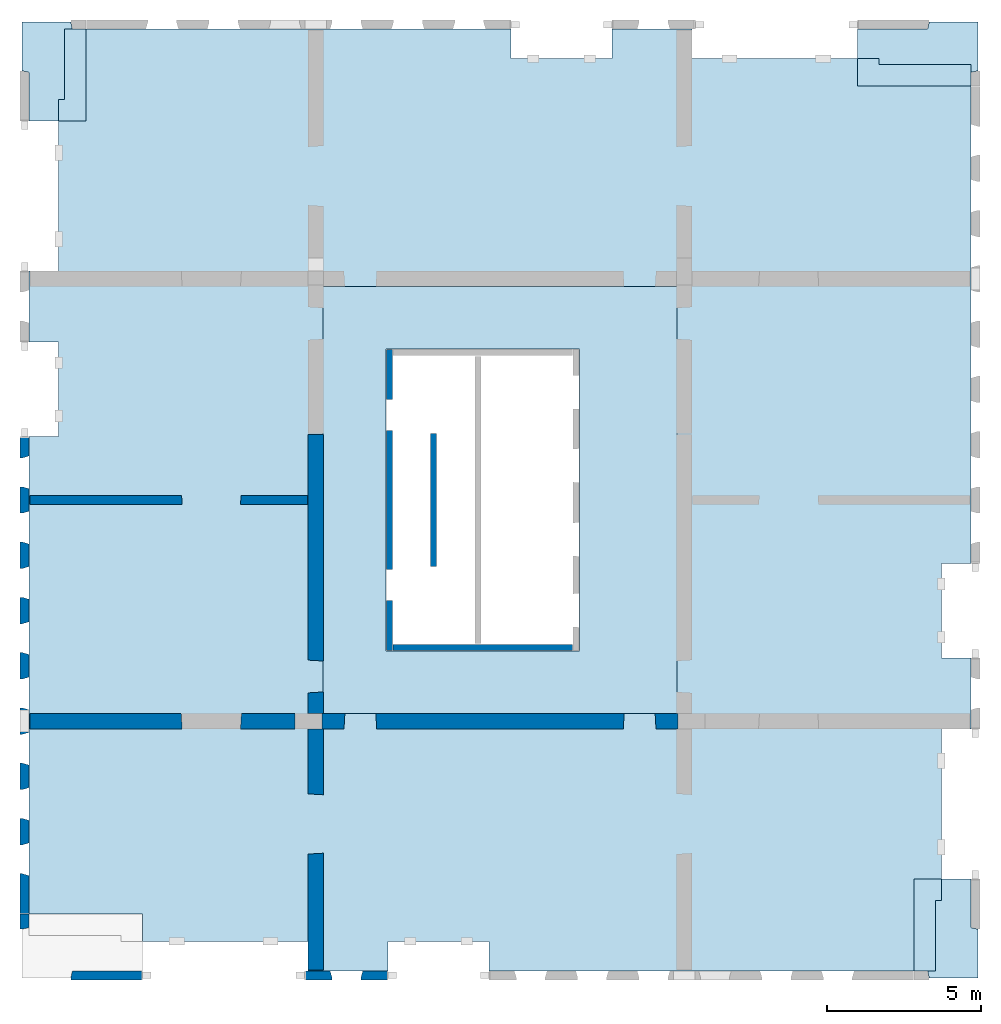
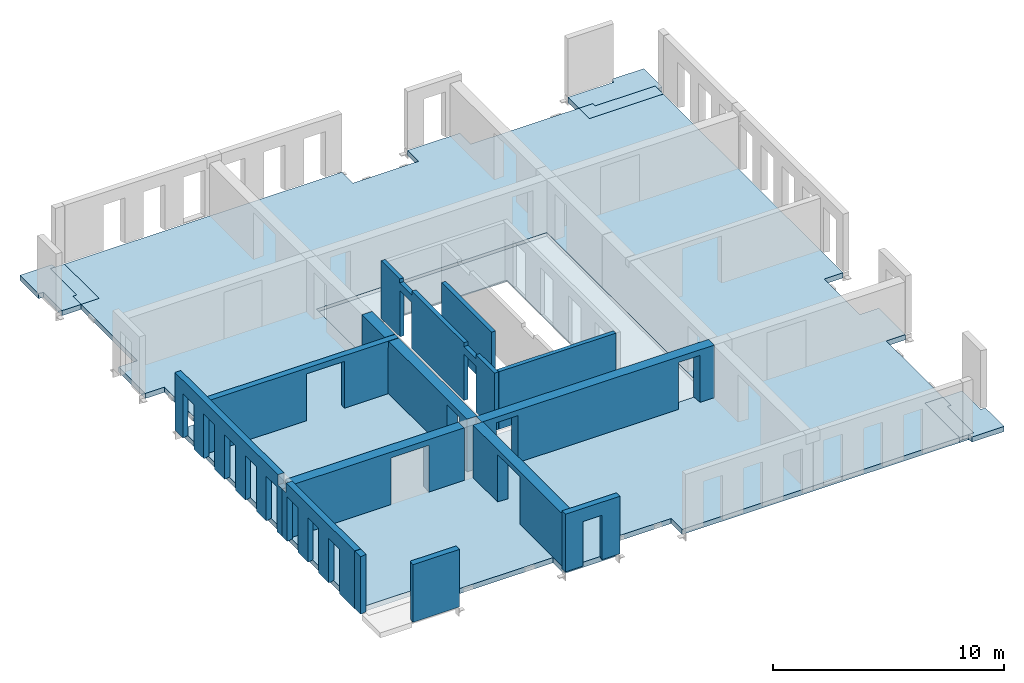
# One storey, part 2 of 4: 13 walls, 8 slabs, 27 openings.
"""IFC2X3 building model written with IfcOpenShell, lengths in millimetres."""

from ifc_helpers import new_model, entity, si_unit, converted_unit, derived_unit, direction, frame, frame_2d, origin, origin_2d_with_axis, place, context, subcontext, project, spatial, polyline, rectangle, outline, extrude, faceted_brep, material, layer, layer_set, layer_usage, type_object, element, save


model = new_model("IFC2X3")

# Units and contexts
model_context = context("Model", 3, precision=0.01, world=origin(), true_north=direction((6.12303176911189e-17, 1.0)))
body_context = subcontext(model_context, "Body", "Model", "MODEL_VIEW")
ifc_project = project(units=[si_unit("LENGTHUNIT", "METRE", prefix="MILLI"), si_unit("AREAUNIT", "SQUARE_METRE"), si_unit("VOLUMEUNIT", "CUBIC_METRE"), converted_unit("PLANEANGLEUNIT", "DEGREE", entity("IfcRatioMeasure", 0.0174532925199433), si_unit("PLANEANGLEUNIT", "RADIAN"), dimensions=[0, 0, 0, 0, 0, 0, 0]), si_unit("MASSUNIT", "GRAM", prefix="KILO"), derived_unit("MASSDENSITYUNIT", [(si_unit("MASSUNIT", "GRAM", prefix="KILO"), 1), (si_unit("LENGTHUNIT", "METRE"), -3)]), si_unit("TIMEUNIT", "SECOND"), si_unit("FREQUENCYUNIT", "HERTZ"), si_unit("THERMODYNAMICTEMPERATUREUNIT", "DEGREE_CELSIUS"), derived_unit("THERMALTRANSMITTANCEUNIT", [(si_unit("MASSUNIT", "GRAM", prefix="KILO"), 1), (si_unit("THERMODYNAMICTEMPERATUREUNIT", "KELVIN"), -1), (si_unit("TIMEUNIT", "SECOND"), -3)]), derived_unit("VOLUMETRICFLOWRATEUNIT", [(si_unit("LENGTHUNIT", "METRE"), 3), (si_unit("TIMEUNIT", "SECOND"), -1)]), si_unit("ELECTRICCURRENTUNIT", "AMPERE"), si_unit("ELECTRICVOLTAGEUNIT", "VOLT"), si_unit("POWERUNIT", "WATT"), si_unit("FORCEUNIT", "NEWTON", prefix="KILO"), si_unit("ILLUMINANCEUNIT", "LUX"), si_unit("LUMINOUSFLUXUNIT", "LUMEN"), si_unit("LUMINOUSINTENSITYUNIT", "CANDELA"), derived_unit("USERDEFINED", [(si_unit("MASSUNIT", "GRAM", prefix="KILO"), -1), (si_unit("LENGTHUNIT", "METRE"), -2), (si_unit("TIMEUNIT", "SECOND"), 3), (si_unit("LUMINOUSFLUXUNIT", "LUMEN"), 1)]), derived_unit("LINEARVELOCITYUNIT", [(si_unit("LENGTHUNIT", "METRE"), 1), (si_unit("TIMEUNIT", "SECOND"), -1)]), si_unit("PRESSUREUNIT", "PASCAL"), derived_unit("USERDEFINED", [(si_unit("LENGTHUNIT", "METRE"), -2), (si_unit("MASSUNIT", "GRAM", prefix="KILO"), 1), (si_unit("TIMEUNIT", "SECOND"), -2)])], contexts=[model_context])

# Site, building, storey
site_placement = place(None, origin())
site = spatial("IfcSite", under=ifc_project, at=site_placement, Name="Default", CompositionType="ELEMENT")
building_placement = place(site_placement, origin())
building = spatial("IfcBuilding", under=site, at=building_placement, Name="niet gebruiken", CompositionType="ELEMENT")
storey_placement = place(building_placement, frame((0.0, 0.0, 51660.0)))
storey = spatial("IfcBuildingStorey", under=building, at=storey_placement, Name="16 zestiende verdieping", CompositionType="ELEMENT", Elevation=51660.0)

# Slabs
ifc_material_1 = material(Name="NLRS_f2_beton prefab")
ifc_layer_1 = layer(ifc_material_1, 270.0)
ifc_layer_set_1 = layer_set([ifc_layer_1], Name="Floor:NLRS_23.22_FL_beton prefab d=270 3D element_gen")
ifc_layer_usage_1 = layer_usage(ifc_layer_set_1, "AXIS3", "POSITIVE", 0.0)
slab_1_placement = place(storey_placement, origin())
element("IfcSlab", 1, at=slab_1_placement, inside=storey, material=ifc_layer_usage_1, Name="Floor:NLRS_23.22_FL_beton prefab d=270 3D element_gen", ObjectType="Floor:NLRS_23.22_FL_beton prefab d=270 3D element_gen", PredefinedType="LANDING", context=body_context, shape_type="SweptSolid", body=[
    extrude(outline(polyline([(-322.675940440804, -982.471394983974), (1267.47139498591, -982.471394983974), (1267.47139498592, 607.675940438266), (1034.47139498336, 655.152429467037), (1034.47139498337, 1100.5286050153), (-1955.52860501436, 1100.52860501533), (-1955.52860501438, -749.471394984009), (-370.152429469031, -749.471394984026), (-322.675940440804, -982.471394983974)])), frame((127169.471394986, 31795.5286050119, -90.0), z_axis=(0.0, 0.0, -1.0), x_axis=(0.0, 1.0, 0.0)), (0.0, 0.0, 1.0), 269.999999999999),
])
ifc_material_2 = material(Name="NLRS_f2_beton ihwg")
ifc_layer_2 = layer(ifc_material_2, 170.0)
ifc_layer_set_2 = layer_set([ifc_layer_2], Name="Floor:NLRS_23.21_FL_beton ihwg d=170_gen")
ifc_layer_usage_2 = layer_usage(ifc_layer_set_2, "AXIS3", "POSITIVE", 0.0)
slab_2_placement = place(storey_placement, origin())
element("IfcSlab", 2, at=slab_2_placement, inside=storey, material=ifc_layer_usage_2, Name="Floor:NLRS_23.21_FL_beton ihwg d=170_gen", ObjectType="Floor:NLRS_23.21_FL_beton ihwg d=170_gen", PredefinedType="FLOOR", context=body_context, shape_type="SweptSolid", body=[
    extrude(outline(polyline([(-1230.0, -366.666666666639), (-530.0, -366.666666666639), (-530.0, -166.66666666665), (1760.0, -166.666666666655), (1760.0, 533.333333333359), (-1230.0, 533.333333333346), (-1230.0, -366.666666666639)])), frame((127736.666666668, 31070.0, -90.0), z_axis=(0.0, 0.0, -1.0), x_axis=(0.0, 1.0, 0.0)), (0.0, 0.0, 1.0), 169.999999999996),
])
ifc_layer_usage_3 = layer_usage(ifc_layer_set_1, "AXIS3", "POSITIVE", 0.0)
slab_3_placement = place(storey_placement, origin())
element("IfcSlab", 3, at=slab_3_placement, inside=storey, material=ifc_layer_usage_3, Name="Floor:NLRS_23.22_FL_beton prefab d=270 3D element_gen", ObjectType="Floor:NLRS_23.22_FL_beton prefab d=270 3D element_gen", PredefinedType="LANDING", context=body_context, shape_type="SweptSolid", body=[
    extrude(outline(polyline([(-1034.47139498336, -1100.52860501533), (1955.52860501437, -1100.52860501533), (1955.52860501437, 749.471394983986), (370.152429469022, 749.471394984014), (322.675940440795, 982.471394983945), (-1267.47139498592, 982.471394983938), (-1267.47139498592, -607.675940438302), (-1034.47139498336, -655.152429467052), (-1034.47139498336, -1100.52860501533)])), frame((156330.528605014, 3204.47139498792, -90.0), z_axis=(0.0, 0.0, -1.0), x_axis=(0.0, 1.0, 0.0)), (0.0, 0.0, 1.0), 269.999999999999),
])
ifc_layer_usage_4 = layer_usage(ifc_layer_set_2, "AXIS3", "POSITIVE", 0.0)
slab_4_placement = place(storey_placement, origin())
element("IfcSlab", 4, at=slab_4_placement, inside=storey, material=ifc_layer_usage_4, Name="Floor:NLRS_23.21_FL_beton ihwg d=170_gen", ObjectType="Floor:NLRS_23.21_FL_beton ihwg d=170_gen", PredefinedType="FLOOR", context=body_context, shape_type="SweptSolid", body=[
    extrude(outline(polyline([(-1760.0, -533.33333333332), (1230.0, -533.33333333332), (1230.0, 366.666666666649), (530.0, 366.666666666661), (530.0, 166.666666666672), (-1760.0, 166.666666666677), (-1760.0, -533.33333333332)])), frame((155763.333333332, 3930.0, -90.0), z_axis=(0.0, 0.0, -1.0), x_axis=(0.0, 1.0, 0.0)), (0.0, 0.0, 1.0), 169.999999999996),
])
ifc_layer_usage_5 = layer_usage(ifc_layer_set_1, "AXIS3", "POSITIVE", 0.0)
slab_5_placement = place(storey_placement, origin())
element("IfcSlab", 5, at=slab_5_placement, inside=storey, material=ifc_layer_usage_5, Name="Floor:NLRS_23.22_FL_beton prefab d=270 3D element_gen", ObjectType="Floor:NLRS_23.22_FL_beton prefab d=270 3D element_gen", PredefinedType="LANDING", context=body_context, shape_type="SweptSolid", body=[
    extrude(outline(polyline([(-1100.52860501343, -2480.52860501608), (749.471394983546, -2480.52860501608), (749.471394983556, -195.152429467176), (982.471394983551, -147.675940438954), (982.471394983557, 1442.47139498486), (-607.675940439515, 1442.47139498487), (-655.152429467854, 1209.47139498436), (-1100.52860501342, 1209.47139498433), (-1100.52860501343, -2480.52860501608)])), frame((155870.528605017, 32080.5286050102, -90.0), z_axis=(0.0, 0.0, -1.0), x_axis=(0.0, 1.0, 0.0)), (0.0, 0.0, 1.0), 269.999999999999),
])
ifc_layer_usage_6 = layer_usage(ifc_layer_set_2, "AXIS3", "POSITIVE", 0.0)
slab_6_placement = place(storey_placement, origin())
element("IfcSlab", 6, at=slab_6_placement, inside=storey, material=ifc_layer_usage_6, Name="Floor:NLRS_23.21_FL_beton ihwg d=170_gen", ObjectType="Floor:NLRS_23.21_FL_beton ihwg d=170_gen", PredefinedType="FLOOR", context=body_context, shape_type="SweptSolid", body=[
    extrude(outline(polyline([(-533.333333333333, -1463.33333333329), (366.666666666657, -1463.33333333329), (366.666666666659, -763.333333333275), (166.66666666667, -763.333333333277), (166.666666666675, 2226.66666666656), (-533.333333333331, 2226.66666666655), (-533.333333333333, -1463.33333333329)])), frame((154853.333333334, 31513.3333333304, -90.0), z_axis=(0.0, 0.0, -1.0), x_axis=(0.0, 1.0, 0.0)), (0.0, 0.0, 1.0), 169.999999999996),
])

# Slab, opening
ifc_layer_3 = layer(ifc_material_2, 170.0)
ifc_layer_4 = layer(ifc_material_1, 100.0)
ifc_layer_set_3 = layer_set([ifc_layer_3, ifc_layer_4], Name="Floor:NLRS_23.21_FL_breedplaat d=100/270_gen")
ifc_layer_usage_7 = layer_usage(ifc_layer_set_3, "AXIS3", "POSITIVE", 0.0)
slab_7_placement = place(storey_placement, frame((126419.874984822, 2169.76388720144, -360.0)))
slab_7 = element("IfcSlab", 7, at=slab_7_placement, inside=storey, material=ifc_layer_usage_7, Name="Floor:NLRS_23.21_FL_breedplaat d=100/270_gen", ObjectType="Floor:NLRS_23.21_FL_breedplaat d=100/270_gen", PredefinedType="FLOOR", context=body_context, shape_type="SweptSolid", body=[
    extrude(outline(polyline([(-360.0, 15330.0), (-360.0, 14380.0), (-3640.0, 14380.0), (-3640.0, 15330.0), (-6250.0, 15330.0), (-6250.0, 14380.0), (-11640.0, 14380.0), (-11640.0, 13480.0), (-15330.0, 13480.0), (-15330.0, -2060.0), (-14380.0, -2060.0), (-14380.0, -5140.0), (-15330.0, -5140.0), (-15330.0, -7450.0), (-14380.0, -7450.0), (-14380.0, -12340.0), (-13480.0, -12340.0), (-13480.0, -15330.0), (360.0, -15330.0), (360.0, -14380.0), (3640.0, -14380.0), (3640.0, -15330.0), (6250.0, -15330.0), (6250.0, -14380.0), (11640.0, -14380.0), (11640.0, -13480.0), (15330.0, -13480.0), (15330.0, 2060.0), (14380.0, 2060.0), (14380.0, 5140.0), (15330.0, 5140.0), (15330.0, 7450.0), (14380.0, 7450.0), (14380.0, 12340.0), (13480.0, 12340.0), (13480.0, 15330.0), (-360.0, 15330.0)])), frame((15330.0, 15330.0, 270.0), z_axis=(0.0, 0.0, -1.0), x_axis=(-1.0, 0.0, 0.0)), (0.0, 0.0, 1.0), 269.999999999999),
])
opening_1_placement = place(slab_7_placement, frame((15330.0, 15330.0, 270.0)))
element("IfcOpeningElement", 8, at=opening_1_placement, cuts=slab_7, Name="Floor:NLRS_23.21_FL_breedplaat d=100/270_gen:2", ObjectType="Opening", context=body_context, shape_type="SweptSolid", body=[
    extrude(rectangle(XDim=13900.0, YDim=11500.0, at=origin_2d_with_axis()), frame((0.0, 0.0, 0.0), z_axis=(0.0, 0.0, -1.0), x_axis=(0.0, -1.0, 0.0)), (0.0, 0.0, 1.0), 269.999999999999),
])

ifc_layer_5 = layer(ifc_material_1, 60.0)
ifc_layer_set_4 = layer_set([ifc_layer_5], Name="Floor:NLRS_23.21_FL_breedplaat d=60_gen")
ifc_layer_usage_8 = layer_usage(ifc_layer_set_4, "AXIS3", "POSITIVE", 0.0)
slab_8_placement = place(storey_placement, frame((135990.0, 10540.0, -320.0)))
slab_8 = element("IfcSlab", 9, at=slab_8_placement, inside=storey, material=ifc_layer_usage_8, Name="Floor:NLRS_23.21_FL_breedplaat d=60_gen", ObjectType="Floor:NLRS_23.21_FL_breedplaat d=60_gen", PredefinedType="FLOOR", context=body_context, shape_type="SweptSolid", body=[
    extrude(rectangle(XDim=13919.9999999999, YDim=11520.0, at=frame_2d((0.0, 0.0), x_axis=(0.0, -1.0))), frame((5760.0, 6960.0, 60.0), z_axis=(0.0, 0.0, -1.0), x_axis=(-1.0, 0.0, 0.0)), (0.0, 0.0, 1.0), 60.0000000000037),
])
opening_2_placement = place(slab_8_placement, frame((5200.0, 6960.0, 60.0)))
element("IfcOpeningElement", 10, at=opening_2_placement, cuts=slab_8, Name="Floor:NLRS_23.21_FL_breedplaat d=60_gen:2", ObjectType="Opening", context=body_context, shape_type="SweptSolid", body=[
    extrude(rectangle(XDim=9820.0, YDim=6299.99999999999, at=origin_2d_with_axis()), frame((0.0, 0.0, 0.0), z_axis=(0.0, 0.0, -1.0), x_axis=(0.0, -1.0, 0.0)), (0.0, 0.0, 1.0), 60.0000000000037),
])

# Wall, openings
ifc_layer_6 = layer(ifc_material_1, 200.0)
ifc_layer_set_5 = layer_set([ifc_layer_6], Name="Basic Wall:NLRS_22.21_WA_beton prefab d=200_gen")
ifc_layer_usage_9 = layer_usage(ifc_layer_set_5, "AXIS2", "NEGATIVE", 100.0)
wall_type_1 = type_object("IfcWallType", Name="Basic Wall:NLRS_22.21_WA_beton prefab d=200_gen", PredefinedType="STANDARD", material=ifc_layer_set_5)
wall_1_placement = place(storey_placement, frame((138150.0, 22400.0, -50.0), z_axis=(0.0, 0.0, 1.0), x_axis=(0.0, -1.0, 0.0)))
wall_1 = element("IfcWallStandardCase", 11, at=wall_1_placement, inside=storey, type_object=wall_type_1, material=ifc_layer_usage_9, Name="Basic Wall:NLRS_22.21_WA_beton prefab d=200_gen", ObjectType="Basic Wall:NLRS_22.21_WA_beton prefab d=200_gen", context=body_context, shape_type="SweptSolid", body=[
    extrude(rectangle(XDim=9800.0, YDim=199.999999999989, at=frame_2d((4900.0, 3.76587649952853e-13), x_axis=(-1.0, 0.0))), origin(), (0.0, 0.0, 1.0), 3040.0),
])
opening_3_placement = place(wall_1_placement, origin())
element("IfcOpeningElement", 12, at=opening_3_placement, cuts=wall_1, Name="Basic Wall:NLRS_22.21_WA_beton prefab d=200_gen", ObjectType="Opening", context=body_context, shape_type="SweptSolid", body=[
    extrude(rectangle(XDim=199.999999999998, YDim=1044.0, at=frame_2d((4.33431068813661e-12, 0.0), x_axis=(1.0, 0.0))), frame((7672.0, -100.0, 2940.0), z_axis=(0.0, 1.0, 0.0), x_axis=(0.0, 0.0, -1.0)), (0.0, 0.0, 1.0), 199.999999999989),
])
opening_4_placement = place(wall_1_placement, origin())
element("IfcOpeningElement", 13, at=opening_4_placement, cuts=wall_1, Name="Basic Wall:NLRS_22.21_WA_beton prefab d=200_gen", ObjectType="Opening", context=body_context, shape_type="SweptSolid", body=[
    extrude(rectangle(XDim=199.999999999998, YDim=1044.0, at=frame_2d((4.33431068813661e-12, 2.1600499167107e-12), x_axis=(1.0, 0.0))), frame((2128.0, -100.0, 2940.0), z_axis=(0.0, 1.0, 0.0), x_axis=(0.0, 0.0, -1.0)), (0.0, 0.0, 1.0), 199.999999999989),
])
opening_5_placement = place(wall_1_placement, origin())
element("IfcOpeningElement", 14, at=opening_5_placement, cuts=wall_1, Name="Basic Wall:NLRS_22.21_WA_beton prefab d=200_gen", ObjectType="Opening", context=body_context, shape_type="SweptSolid", body=[
    extrude(rectangle(XDim=2435.00000000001, YDim=1015.99999999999, at=frame_2d((-4.32009983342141e-12, 1.10844666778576e-12), x_axis=(1.0, 0.0))), frame((7672.0, -100.0, 1217.50000000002), z_axis=(0.0, 1.0, 0.0), x_axis=(0.0, 0.0, -1.0)), (0.0, 0.0, 1.0), 199.999999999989),
])
opening_6_placement = place(wall_1_placement, origin())
element("IfcOpeningElement", 15, at=opening_6_placement, cuts=wall_1, Name="Basic Wall:NLRS_22.21_WA_beton prefab d=200_gen", ObjectType="Opening", context=body_context, shape_type="SweptSolid", body=[
    extrude(rectangle(XDim=2435.00000000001, YDim=1015.99999999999, at=frame_2d((-4.32009983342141e-12, -2.18847162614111e-12), x_axis=(1.0, 0.0))), frame((2128.0, -100.0, 1217.50000000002), z_axis=(0.0, 1.0, 0.0), x_axis=(0.0, 0.0, -1.0)), (0.0, 0.0, 1.0), 199.999999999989),
])

# Walls
ifc_layer_usage_10 = layer_usage(ifc_layer_set_5, "AXIS2", "NEGATIVE", 100.0)
wall_2_placement = place(storey_placement, frame((139590.0, 19660.0, -50.0), z_axis=(0.0, 0.0, 1.0), x_axis=(0.0, -1.0, 0.0)))
element("IfcWallStandardCase", 16, at=wall_2_placement, inside=storey, type_object=wall_type_1, material=ifc_layer_usage_10, Name="Basic Wall:NLRS_22.21_WA_beton prefab d=200_gen", ObjectType="Basic Wall:NLRS_22.21_WA_beton prefab d=200_gen", context=body_context, shape_type="SweptSolid", body=[
    extrude(rectangle(XDim=4320.00000000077, YDim=199.999999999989, at=frame_2d((2160.00000000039, 0.0), x_axis=(-1.0, 0.0))), origin(), (0.0, 0.0, 1.0), 3040.0),
])
ifc_layer_usage_11 = layer_usage(ifc_layer_set_5, "AXIS2", "NEGATIVE", 100.0)
wall_3_placement = place(storey_placement, frame((138270.0, 12700.0, -50.0)))
element("IfcWallStandardCase", 17, at=wall_3_placement, inside=storey, type_object=wall_type_1, material=ifc_layer_usage_11, Name="Basic Wall:NLRS_22.21_WA_beton prefab d=200_gen", ObjectType="Basic Wall:NLRS_22.21_WA_beton prefab d=200_gen", context=body_context, shape_type="SweptSolid", body=[
    extrude(rectangle(XDim=5839.99999999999, YDim=199.999999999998, at=frame_2d((2919.99999999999, -6.82121026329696e-13), x_axis=(-1.0, 0.0))), origin(), (0.0, 0.0, 1.0), 3040.0),
])

# Wall, openings
ifc_layer_7 = layer(ifc_material_1, 300.0)
ifc_layer_set_6 = layer_set([ifc_layer_7], Name="Basic Wall:NLRS_22.21_WA_beton prefab d=300_gen")
ifc_layer_usage_12 = layer_usage(ifc_layer_set_6, "AXIS2", "NEGATIVE", 150.0)
wall_type_2 = type_object("IfcWallType", Name="Basic Wall:NLRS_22.21_WA_beton prefab d=300_gen", PredefinedType="STANDARD", material=ifc_layer_set_6)
wall_4_placement = place(storey_placement, frame((126440.0, 17500.0, -70.0)))
wall_4 = element("IfcWallStandardCase", 18, at=wall_4_placement, inside=storey, type_object=wall_type_2, material=ifc_layer_usage_12, Name="Basic Wall:NLRS_22.21_WA_beton prefab d=300_gen", ObjectType="Basic Wall:NLRS_22.21_WA_beton prefab d=300_gen", context=body_context, shape_type="SweptSolid", body=[
    extrude(rectangle(XDim=9559.9999999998, YDim=300.000000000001, at=frame_2d((4779.9999999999, -4.2632564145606e-14), x_axis=(-1.0, 0.0))), origin(), (0.0, 0.0, 1.0), 2769.99999999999),
])
opening_7_placement = place(wall_4_placement, frame((4942.0, -150.0, 0.0)))
element("IfcOpeningElement", 19, at=opening_7_placement, cuts=wall_4, Name="Basic Wall:NLRS_22.21_WA_beton prefab d=300_gen", ObjectType="Opening", context=body_context, shape_type="Brep", body=[
    faceted_brep([(1918.0, 0.0, 2470.0), (18.0, 0.0, 2470.0), (18.0, 0.0, 0.0), (1918.0, 0.0, 0.0), (1936.0, 300.0, 2488.0), (1936.0, 300.0, 0.0), (0.0, 300.0, 0.0), (0.0, 300.0, 2488.0)], [[[0, 1, 2, 3]], [[4, 5, 6, 7]], [[4, 7, 1, 0]], [[7, 6, 2, 1]], [[6, 5, 3, 2]], [[5, 4, 0, 3]]]),
])
opening_8_placement = place(wall_4_placement, origin())
element("IfcOpeningElement", 20, at=opening_8_placement, cuts=wall_4, Name="Basic Wall:NLRS_22.21_WA_beton prefab d=300_gen", ObjectType="Opening", context=body_context, shape_type="SweptSolid", body=[
    extrude(rectangle(XDim=2440.0, YDim=520.000000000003, at=frame_2d((8.64019966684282e-12, 0.0), x_axis=(0.0, 1.0))), frame((9300.0, 150.0, 1220.0), z_axis=(0.0, -1.0, 0.0), x_axis=(1.0, 0.0, 0.0)), (0.0, 0.0, 1.0), 300.0),
])

# Wall, opening
ifc_layer_8 = layer(ifc_material_1, 500.0)
ifc_layer_set_7 = layer_set([ifc_layer_8], Name="Basic Wall:NLRS_22.21_WA_beton prefab d=500_gen")
ifc_layer_usage_13 = layer_usage(ifc_layer_set_7, "AXIS2", "NEGATIVE", 250.0)
wall_type_3 = type_object("IfcWallType", Name="Basic Wall:NLRS_22.21_WA_beton prefab d=500_gen", PredefinedType="STANDARD", material=ifc_layer_set_7)
wall_5_placement = place(storey_placement, frame((135750.0, 10050.0, -70.0), z_axis=(0.0, 0.0, 1.0), x_axis=(0.0, -1.0, 0.0)))
wall_5 = element("IfcWallStandardCase", 21, at=wall_5_placement, inside=storey, type_object=wall_type_3, material=ifc_layer_usage_13, Name="Basic Wall:NLRS_22.21_WA_beton prefab d=500_gen", ObjectType="Basic Wall:NLRS_22.21_WA_beton prefab d=500_gen", context=body_context, shape_type="SweptSolid", body=[
    extrude(rectangle(XDim=7859.99999999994, YDim=499.99999999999, at=frame_2d((3929.99999999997, 8.5265128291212e-14), x_axis=(-1.0, 0.0))), origin(), (0.0, 0.0, 1.0), 2769.99999999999),
])
opening_9_placement = place(wall_5_placement, frame((4080.0, -250.0, 0.0)))
element("IfcOpeningElement", 22, at=opening_9_placement, cuts=wall_5, Name="Basic Wall:NLRS_22.21_WA_beton prefab d=500_gen", ObjectType="Opening", context=body_context, shape_type="Brep", body=[
    faceted_brep([(-30.0, 500.0, 2470.0), (-30.0, 500.0, 0.0), (-1930.0, 500.0, 0.0), (-1930.0, 500.0, 2470.0), (0.0, 0.0, 2500.0), (-1960.0, 0.0, 2500.0), (-1960.0, 0.0, 0.0), (0.0, 0.0, 0.0)], [[[0, 1, 2, 3]], [[4, 5, 6, 7]], [[4, 0, 3, 5]], [[5, 3, 2, 6]], [[6, 2, 1, 7]], [[7, 1, 0, 4]]]),
])

# Wall, openings
ifc_layer_usage_14 = layer_usage(ifc_layer_set_7, "AXIS2", "NEGATIVE", 250.0)
wall_6_placement = place(storey_placement, frame((135950.003540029, 10300.0, -70.0)))
wall_6 = element("IfcWallStandardCase", 23, at=wall_6_placement, inside=storey, type_object=wall_type_3, material=ifc_layer_usage_14, Name="Basic Wall:NLRS_22.21_WA_beton prefab d=500_gen", ObjectType="Basic Wall:NLRS_22.21_WA_beton prefab d=500_gen", context=body_context, shape_type="SweptSolid", body=[
    extrude(rectangle(XDim=11599.9964599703, YDim=499.999999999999, at=frame_2d((5799.99822998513, 1.4210854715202e-13), x_axis=(-1.0, 0.0))), origin(), (0.0, 0.0, 1.0), 2770.00000000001),
])
opening_10_placement = place(wall_6_placement, frame((719.996459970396, -250.0, 0.0)))
element("IfcOpeningElement", 24, at=opening_10_placement, cuts=wall_6, Name="Basic Wall:NLRS_22.21_WA_beton prefab d=500_gen", ObjectType="Opening", context=body_context, shape_type="Brep", body=[
    faceted_brep([(0.0, 0.0, 2478.0), (30.0, 500.0, 2448.0), (30.0, 500.0, 0.0), (0.0, 0.0, 0.0), (1036.0, 500.0, 0.0), (1066.0, 0.0, 0.0), (1036.0, 500.0, 2448.0), (1066.0, 0.0, 2478.0)], [[[0, 1, 2, 3]], [[3, 2, 4, 5]], [[6, 4, 2, 1]], [[7, 0, 3, 5]], [[7, 6, 1, 0]], [[5, 4, 6, 7]]]),
])
opening_11_placement = place(wall_6_placement, frame((9813.99645997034, -250.0, 0.0)))
element("IfcOpeningElement", 25, at=opening_11_placement, cuts=wall_6, Name="Basic Wall:NLRS_22.21_WA_beton prefab d=500_gen", ObjectType="Opening", context=body_context, shape_type="Brep", body=[
    faceted_brep([(0.0, 0.0, 2478.0), (30.0, 500.0, 2448.0), (30.0, 500.0, 0.0), (0.0, 0.0, 0.0), (1036.0, 500.0, 0.0), (1066.0, 0.0, 0.0), (1036.0, 500.0, 2448.0), (1066.0, 0.0, 2478.0)], [[[0, 1, 2, 3]], [[3, 2, 4, 5]], [[6, 4, 2, 1]], [[7, 0, 3, 5]], [[7, 6, 1, 0]], [[5, 4, 6, 7]]]),
])

# Wall, opening
ifc_layer_usage_15 = layer_usage(ifc_layer_set_7, "AXIS2", "NEGATIVE", 250.0)
wall_7_placement = place(storey_placement, frame((126440.0, 10300.0, -70.0)))
wall_7 = element("IfcWallStandardCase", 26, at=wall_7_placement, inside=storey, type_object=wall_type_3, material=ifc_layer_usage_15, Name="Basic Wall:NLRS_22.21_WA_beton prefab d=500_gen", ObjectType="Basic Wall:NLRS_22.21_WA_beton prefab d=500_gen", context=body_context, shape_type="SweptSolid", body=[
    extrude(rectangle(XDim=8630.00354003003, YDim=499.999999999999, at=frame_2d((4315.00177001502, 4.2632564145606e-14), x_axis=(-1.0, 0.0))), origin(), (0.0, 0.0, 1.0), 2769.99999999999),
])
opening_12_placement = place(wall_7_placement, frame((4930.0, -250.0, 0.0)))
element("IfcOpeningElement", 27, at=opening_12_placement, cuts=wall_7, Name="Basic Wall:NLRS_22.21_WA_beton prefab d=500_gen", ObjectType="Opening", context=body_context, shape_type="Brep", body=[
    faceted_brep([(1930.0, 0.0, 2470.0), (30.0, 0.0, 2470.0), (30.0, 0.0, 0.0), (1930.0, 0.0, 0.0), (1960.0, 500.0, 2500.0), (1960.0, 500.0, 0.0), (0.0, 500.0, 0.0), (0.0, 500.0, 2500.0)], [[[0, 1, 2, 3]], [[4, 5, 6, 7]], [[4, 7, 1, 0]], [[7, 6, 2, 1]], [[6, 5, 3, 2]], [[5, 4, 0, 3]]]),
])

# Wall, openings
ifc_layer_usage_16 = layer_usage(ifc_layer_set_7, "AXIS2", "NEGATIVE", 250.0)
wall_8_placement = place(storey_placement, frame((135750.0, 19640.0, -70.0), z_axis=(0.0, 0.0, 1.0), x_axis=(0.0, -1.0, 0.0)))
wall_8 = element("IfcWallStandardCase", 28, at=wall_8_placement, inside=storey, type_object=wall_type_3, material=ifc_layer_usage_16, Name="Basic Wall:NLRS_22.21_WA_beton prefab d=500_gen", ObjectType="Basic Wall:NLRS_22.21_WA_beton prefab d=500_gen", context=body_context, shape_type="SweptSolid", body=[
    extrude(rectangle(XDim=9089.98844925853, YDim=499.99999999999, at=frame_2d((4544.99422462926, -7.105427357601e-14), x_axis=(-1.0, 0.0))), origin(), (0.0, 0.0, 1.0), 2770.00000000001),
])
opening_13_placement = place(wall_8_placement, frame((8420.0, -250.0, 0.0)))
element("IfcOpeningElement", 29, at=opening_13_placement, cuts=wall_8, Name="Basic Wall:NLRS_22.21_WA_beton prefab d=500_gen", ObjectType="Opening", context=body_context, shape_type="Brep", body=[
    faceted_brep([(-1066.0, 0.0, 2478.0), (-1036.0, 500.0, 2448.0), (-1036.0, 500.0, 0.0), (-1066.0, 0.0, 0.0), (-30.0, 500.0, 0.0), (0.0, 0.0, 0.0), (-30.0, 500.0, 2448.0), (0.0, 0.0, 2478.0)], [[[0, 1, 2, 3]], [[3, 2, 4, 5]], [[6, 4, 2, 1]], [[7, 0, 3, 5]], [[7, 6, 1, 0]], [[5, 4, 6, 7]]]),
])
opening_14_placement = place(wall_8_placement, origin())
element("IfcOpeningElement", 30, at=opening_14_placement, cuts=wall_8, Name="Basic Wall:NLRS_22.21_WA_beton prefab d=500_gen", ObjectType="Opening", context=body_context, shape_type="SweptSolid", body=[
    extrude(rectangle(XDim=350.000000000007, YDim=339.999999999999, at=frame_2d((-1.08002495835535e-12, 0.0), x_axis=(0.0, 1.0))), frame((2140.0, 250.0, 2595.0), z_axis=(0.0, -1.0, 0.0), x_axis=(-1.0, 0.0, 0.0)), (0.0, 0.0, 1.0), 500.0),
])

# Wall, opening
ifc_layer_9 = layer(ifc_material_1, 300.0)
ifc_layer_set_8 = layer_set([ifc_layer_9], Name="Basic Wall:NLRS_21.21_WA_beton prefab d=300/320_gen")
ifc_layer_usage_17 = layer_usage(ifc_layer_set_8, "AXIS2", "NEGATIVE", 150.0)
wall_type_4 = type_object("IfcWallType", Name="Basic Wall:NLRS_21.21_WA_beton prefab d=300/320_gen", PredefinedType="STANDARD", material=ifc_layer_set_8)
wall_9_placement = place(storey_placement, frame((138110.0, 2020.0, -50.0), z_axis=(0.0, 0.0, 1.0), x_axis=(-1.0, 0.0, 0.0)))
wall_9 = element("IfcWallStandardCase", 31, at=wall_9_placement, inside=storey, type_object=wall_type_4, material=ifc_layer_usage_17, Name="Basic Wall:NLRS_21.21_WA_beton prefab d=300/320_gen", ObjectType="Basic Wall:NLRS_21.21_WA_beton prefab d=300/320_gen", context=body_context, shape_type="SweptSolid", body=[
    extrude(rectangle(XDim=2720.00000000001, YDim=300.0, at=frame_2d((1360.0, -8.5265128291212e-14), x_axis=(-1.0, 0.0))), origin(), (0.0, 0.0, 1.0), 3040.0),
])
opening_15_placement = place(wall_9_placement, frame((1895.0, 150.0, -20.0)))
element("IfcOpeningElement", 32, at=opening_15_placement, cuts=wall_9, Name="Basic Wall:NLRS_21.21_WA_beton prefab d=300/320_gen", ObjectType="Opening", context=body_context, shape_type="Brep", body=[
    faceted_brep([(-1070.0, -300.0, 2405.0), (-1070.0, -300.0, 0.0), (0.0, -300.0, 0.0), (0.0, -300.0, 2405.0), (-65.0, -81.0, 2370.0), (-1005.0, -81.0, 2370.0), (-65.0, -81.0, 0.0), (-1005.0, -81.0, 0.0), (-1005.0, 0.0, 0.0), (-65.0, 0.0, 0.0), (-1005.0, 0.0, 2370.0), (-65.0, 0.0, 2370.0)], [[[0, 1, 2, 3]], [[3, 4, 5, 0]], [[2, 6, 4, 3]], [[1, 7, 8, 9, 6, 2]], [[0, 5, 7, 1]], [[10, 11, 9, 8]], [[10, 5, 4, 11]], [[11, 4, 6, 9]], [[8, 7, 5, 10]]]),
])

# Wall, openings
ifc_layer_usage_18 = layer_usage(ifc_layer_set_8, "AXIS2", "NEGATIVE", 150.0)
wall_10_placement = place(storey_placement, frame((126270.0, 4040.0, -50.0), z_axis=(0.0, 0.0, 1.0), x_axis=(0.0, 1.0, 0.0)))
wall_10 = element("IfcWallStandardCase", 33, at=wall_10_placement, inside=storey, type_object=wall_type_4, material=ifc_layer_usage_18, Name="Basic Wall:NLRS_21.21_WA_beton prefab d=300/320_gen", ObjectType="Basic Wall:NLRS_21.21_WA_beton prefab d=300/320_gen", context=body_context, shape_type="SweptSolid", body=[
    extrude(rectangle(XDim=6249.99999999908, YDim=300.000000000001, at=frame_2d((3124.99999999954, 0.0), x_axis=(-1.0, 0.0))), origin(), (0.0, 0.0, 1.0), 3039.99999999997),
])
opening_16_placement = place(wall_10_placement, frame((1225.0, 150.0, -20.0)))
element("IfcOpeningElement", 34, at=opening_16_placement, cuts=wall_10, Name="Basic Wall:NLRS_21.21_WA_beton prefab d=300/320_gen", ObjectType="Opening", context=body_context, shape_type="Brep", body=[
    faceted_brep([(0.0, -300.0, 2405.0), (0.0, -300.0, 0.0), (1070.0, -300.0, 0.0), (1070.0, -300.0, 2405.0), (1005.0, -81.0, 2370.0), (65.0, -81.0, 2370.0), (1005.0, -81.0, 0.0), (65.0, -81.0, 0.0), (65.0, 0.0, 0.0), (1005.0, 0.0, 0.0), (65.0, 0.0, 2370.0), (1005.0, 0.0, 2370.0)], [[[0, 1, 2, 3]], [[3, 4, 5, 0]], [[2, 6, 4, 3]], [[1, 7, 8, 9, 6, 2]], [[0, 5, 7, 1]], [[10, 11, 9, 8]], [[10, 5, 4, 11]], [[11, 4, 6, 9]], [[8, 7, 5, 10]]]),
])
opening_17_placement = place(wall_10_placement, frame((3025.0, 150.0, -20.0)))
element("IfcOpeningElement", 35, at=opening_17_placement, cuts=wall_10, Name="Basic Wall:NLRS_21.21_WA_beton prefab d=300/320_gen", ObjectType="Opening", context=body_context, shape_type="Brep", body=[
    faceted_brep([(0.0, -300.0, 2405.0), (0.0, -300.0, 0.0), (1070.0, -300.0, 0.0), (1070.0, -300.0, 2405.0), (1005.0, -81.0, 2370.0), (65.0, -81.0, 2370.0), (1005.0, -81.0, 0.0), (65.0, -81.0, 0.0), (65.0, 0.0, 0.0), (1005.0, 0.0, 0.0), (65.0, 0.0, 2370.0), (1005.0, 0.0, 2370.0)], [[[0, 1, 2, 3]], [[3, 4, 5, 0]], [[2, 6, 4, 3]], [[1, 7, 8, 9, 6, 2]], [[0, 5, 7, 1]], [[10, 11, 9, 8]], [[10, 5, 4, 11]], [[11, 4, 6, 9]], [[8, 7, 5, 10]]]),
])
opening_18_placement = place(wall_10_placement, frame((4825.0, 150.0, -20.0)))
element("IfcOpeningElement", 36, at=opening_18_placement, cuts=wall_10, Name="Basic Wall:NLRS_21.21_WA_beton prefab d=300/320_gen", ObjectType="Opening", context=body_context, shape_type="Brep", body=[
    faceted_brep([(0.0, -300.0, 2405.0), (0.0, -300.0, 0.0), (1070.0, -300.0, 0.0), (1070.0, -300.0, 2405.0), (1005.0, -81.0, 2370.0), (65.0, -81.0, 2370.0), (1005.0, -81.0, 0.0), (65.0, -81.0, 0.0), (65.0, 0.0, 0.0), (1005.0, 0.0, 0.0), (65.0, 0.0, 2370.0), (1005.0, 0.0, 2370.0)], [[[0, 1, 2, 3]], [[3, 4, 5, 0]], [[2, 6, 4, 3]], [[1, 7, 8, 9, 6, 2]], [[0, 5, 7, 1]], [[10, 11, 9, 8]], [[10, 5, 4, 11]], [[11, 4, 6, 9]], [[8, 7, 5, 10]]]),
])
opening_19_placement = place(wall_10_placement, origin())
element("IfcOpeningElement", 37, at=opening_19_placement, cuts=wall_10, Name="Basic Wall:NLRS_21.21_WA_beton prefab d=300/320_gen", ObjectType="Opening", context=body_context, shape_type="SweptSolid", body=[
    extrude(rectangle(XDim=534.99999999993, YDim=344.999999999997, at=frame_2d((0.0, 1.08002495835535e-12), x_axis=(1.0, 0.0))), frame((6077.49999999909, 150.0, 2772.5), z_axis=(0.0, -1.0, 0.0), x_axis=(0.0, 0.0, 1.0)), (0.0, 0.0, 1.0), 300.0),
])

# Wall, opening
ifc_layer_usage_19 = layer_usage(ifc_layer_set_8, "AXIS2", "NEGATIVE", 150.0)
wall_11_placement = place(storey_placement, frame((130110.0, 2020.0, -50.0), z_axis=(0.0, 0.0, 1.0), x_axis=(-1.0, 0.0, 0.0)))
wall_11 = element("IfcWallStandardCase", 38, at=wall_11_placement, inside=storey, type_object=wall_type_4, material=ifc_layer_usage_19, Name="Basic Wall:NLRS_21.21_WA_beton prefab d=300/320_gen", ObjectType="Basic Wall:NLRS_21.21_WA_beton prefab d=300/320_gen", context=body_context, shape_type="SweptSolid", body=[
    extrude(rectangle(XDim=2330.00000000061, YDim=300.0, at=frame_2d((1165.00000000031, -5.6843418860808e-14), x_axis=(-1.0, 0.0))), origin(), (0.0, 0.0, 1.0), 3040.0),
])
opening_20_placement = place(wall_11_placement, frame((2330.0, 69.0, 0.0)))
element("IfcOpeningElement", 39, at=opening_20_placement, cuts=wall_11, Name="Basic Wall:NLRS_21.21_WA_beton prefab d=300/320_gen", ObjectType="Opening", context=body_context, shape_type="Brep", body=[
    faceted_brep([(0.0, -319.0, 3040.0), (0.0, 0.0, 3040.0), (-65.0, -319.0, 3040.0), (0.0, -319.0, 0.0), (-65.0, -319.0, 0.0), (0.0, 0.0, 0.0)], [[[0, 1, 2]], [[3, 4, 5]], [[2, 4, 3, 0]], [[0, 3, 5, 1]], [[1, 5, 4, 2]]]),
])

ifc_layer_usage_20 = layer_usage(ifc_layer_set_8, "AXIS2", "NEGATIVE", 150.0)
wall_12_placement = place(storey_placement, frame((126270.0, 3530.0, -50.0), z_axis=(0.0, 0.0, 1.0), x_axis=(0.0, 1.0, 0.0)))
wall_12 = element("IfcWallStandardCase", 40, at=wall_12_placement, inside=storey, type_object=wall_type_4, material=ifc_layer_usage_20, Name="Basic Wall:NLRS_21.21_WA_beton prefab d=300/320_gen", ObjectType="Basic Wall:NLRS_21.21_WA_beton prefab d=300/320_gen", context=body_context, shape_type="SweptSolid", body=[
    extrude(rectangle(XDim=489.999999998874, YDim=300.000000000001, at=frame_2d((244.999999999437, -3.25428572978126e-12), x_axis=(-1.0, 0.0))), origin(), (0.0, 0.0, 1.0), 3040.0),
])
opening_21_placement = place(wall_12_placement, frame((-1.97405825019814e-09, 69.0, 0.0)))
element("IfcOpeningElement", 41, at=opening_21_placement, cuts=wall_12, Name="Basic Wall:NLRS_21.21_WA_beton prefab d=300/320_gen", ObjectType="Opening", context=body_context, shape_type="Brep", body=[
    faceted_brep([(0.0, -319.0, 3040.0), (65.0, -319.0, 3040.0), (0.0, 0.0, 3040.0), (0.0, -319.0, 0.0), (0.0, 0.0, 0.0), (65.0, -319.0, 0.0)], [[[0, 1, 2]], [[3, 4, 5]], [[1, 0, 3, 5]], [[0, 2, 4, 3]], [[2, 1, 5, 4]]]),
])

# Wall, openings
ifc_layer_usage_21 = layer_usage(ifc_layer_set_8, "AXIS2", "NEGATIVE", 150.0)
wall_13_placement = place(storey_placement, frame((126270.0, 10310.0, -50.0), z_axis=(0.0, 0.0, 1.0), x_axis=(0.0, 1.0, 0.0)))
wall_13 = element("IfcWallStandardCase", 42, at=wall_13_placement, inside=storey, type_object=wall_type_4, material=ifc_layer_usage_21, Name="Basic Wall:NLRS_21.21_WA_beton prefab d=300/320_gen", ObjectType="Basic Wall:NLRS_21.21_WA_beton prefab d=300/320_gen", context=body_context, shape_type="SweptSolid", body=[
    extrude(rectangle(XDim=9250.00000000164, YDim=300.000000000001, at=frame_2d((4625.00000000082, 0.0), x_axis=(-1.0, 0.0))), origin(), (0.0, 0.0, 1.0), 3040.0),
])
opening_22_placement = place(wall_13_placement, frame((7555.0, 150.0, -20.0)))
element("IfcOpeningElement", 43, at=opening_22_placement, cuts=wall_13, Name="Basic Wall:NLRS_21.21_WA_beton prefab d=300/320_gen", ObjectType="Opening", context=body_context, shape_type="Brep", body=[
    faceted_brep([(0.0, -300.0, 2405.0), (0.0, -300.0, 0.0), (1070.0, -300.0, 0.0), (1070.0, -300.0, 2405.0), (1005.0, -81.0, 2370.0), (65.0, -81.0, 2370.0), (1005.0, -81.0, 0.0), (65.0, -81.0, 0.0), (65.0, 0.0, 0.0), (1005.0, 0.0, 0.0), (65.0, 0.0, 2370.0), (1005.0, 0.0, 2370.0)], [[[0, 1, 2, 3]], [[3, 4, 5, 0]], [[2, 6, 4, 3]], [[1, 7, 8, 9, 6, 2]], [[0, 5, 7, 1]], [[10, 11, 9, 8]], [[10, 5, 4, 11]], [[11, 4, 6, 9]], [[8, 7, 5, 10]]]),
])
opening_23_placement = place(wall_13_placement, frame((3955.0, 150.0, -20.0)))
element("IfcOpeningElement", 44, at=opening_23_placement, cuts=wall_13, Name="Basic Wall:NLRS_21.21_WA_beton prefab d=300/320_gen", ObjectType="Opening", context=body_context, shape_type="Brep", body=[
    faceted_brep([(0.0, -300.0, 2405.0), (0.0, -300.0, 0.0), (1070.0, -300.0, 0.0), (1070.0, -300.0, 2405.0), (1005.0, -81.0, 2370.0), (65.0, -81.0, 2370.0), (1005.0, -81.0, 0.0), (65.0, -81.0, 0.0), (65.0, 0.0, 0.0), (1005.0, 0.0, 0.0), (65.0, 0.0, 2370.0), (1005.0, 0.0, 2370.0)], [[[0, 1, 2, 3]], [[3, 4, 5, 0]], [[2, 6, 4, 3]], [[1, 7, 8, 9, 6, 2]], [[0, 5, 7, 1]], [[10, 11, 9, 8]], [[10, 5, 4, 11]], [[11, 4, 6, 9]], [[8, 7, 5, 10]]]),
])
opening_24_placement = place(wall_13_placement, frame((2155.0, 150.0, -20.0)))
element("IfcOpeningElement", 45, at=opening_24_placement, cuts=wall_13, Name="Basic Wall:NLRS_21.21_WA_beton prefab d=300/320_gen", ObjectType="Opening", context=body_context, shape_type="Brep", body=[
    faceted_brep([(0.0, -300.0, 2405.0), (0.0, -300.0, 0.0), (1070.0, -300.0, 0.0), (1070.0, -300.0, 2405.0), (1005.0, -81.0, 2370.0), (65.0, -81.0, 2370.0), (1005.0, -81.0, 0.0), (65.0, -81.0, 0.0), (65.0, 0.0, 0.0), (1005.0, 0.0, 0.0), (65.0, 0.0, 2370.0), (1005.0, 0.0, 2370.0)], [[[0, 1, 2, 3]], [[3, 4, 5, 0]], [[2, 6, 4, 3]], [[1, 7, 8, 9, 6, 2]], [[0, 5, 7, 1]], [[10, 11, 9, 8]], [[10, 5, 4, 11]], [[11, 4, 6, 9]], [[8, 7, 5, 10]]]),
])
opening_25_placement = place(wall_13_placement, frame((5755.0, 150.0, -20.0)))
element("IfcOpeningElement", 46, at=opening_25_placement, cuts=wall_13, Name="Basic Wall:NLRS_21.21_WA_beton prefab d=300/320_gen", ObjectType="Opening", context=body_context, shape_type="Brep", body=[
    faceted_brep([(0.0, -300.0, 2405.0), (0.0, -300.0, 0.0), (1070.0, -300.0, 0.0), (1070.0, -300.0, 2405.0), (1005.0, -81.0, 2370.0), (65.0, -81.0, 2370.0), (1005.0, -81.0, 0.0), (65.0, -81.0, 0.0), (65.0, 0.0, 0.0), (1005.0, 0.0, 0.0), (65.0, 0.0, 2370.0), (1005.0, 0.0, 2370.0)], [[[0, 1, 2, 3]], [[3, 4, 5, 0]], [[2, 6, 4, 3]], [[1, 7, 8, 9, 6, 2]], [[0, 5, 7, 1]], [[10, 11, 9, 8]], [[10, 5, 4, 11]], [[11, 4, 6, 9]], [[8, 7, 5, 10]]]),
])
opening_26_placement = place(wall_13_placement, frame((355.0, 150.0, -20.0)))
element("IfcOpeningElement", 47, at=opening_26_placement, cuts=wall_13, Name="Basic Wall:NLRS_21.21_WA_beton prefab d=300/320_gen", ObjectType="Opening", context=body_context, shape_type="Brep", body=[
    faceted_brep([(1070.0, -300.0, 2405.0), (0.0, -300.0, 2405.0), (0.0, -300.0, 0.0), (1070.0, -300.0, 0.0), (1005.0, -81.0, 2370.0), (65.0, -81.0, 2370.0), (65.0, -81.0, 0.0), (65.0, 0.0, 0.0), (1005.0, 0.0, 0.0), (1005.0, -81.0, 0.0), (1005.0, 0.0, 2370.0), (65.0, 0.0, 2370.0)], [[[0, 1, 2, 3]], [[1, 0, 4, 5]], [[2, 1, 5, 6]], [[3, 2, 6, 7, 8, 9]], [[0, 3, 9, 4]], [[10, 8, 7, 11]], [[10, 11, 5, 4]], [[11, 7, 6, 5]], [[8, 10, 4, 9]]]),
])
opening_27_placement = place(wall_13_placement, origin())
element("IfcOpeningElement", 48, at=opening_27_placement, cuts=wall_13, Name="Basic Wall:NLRS_21.21_WA_beton prefab d=300/320_gen", ObjectType="Opening", context=body_context, shape_type="SweptSolid", body=[
    extrude(rectangle(XDim=534.999999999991, YDim=345.000000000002, at=frame_2d((1.08002495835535e-12, 4.32009983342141e-12), x_axis=(0.0, 1.0))), frame((172.500000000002, 150.0, 2772.50000000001), z_axis=(0.0, -1.0, 0.0), x_axis=(-1.0, 0.0, 0.0)), (0.0, 0.0, 1.0), 300.0),
])

save(model, "model.ifc")
